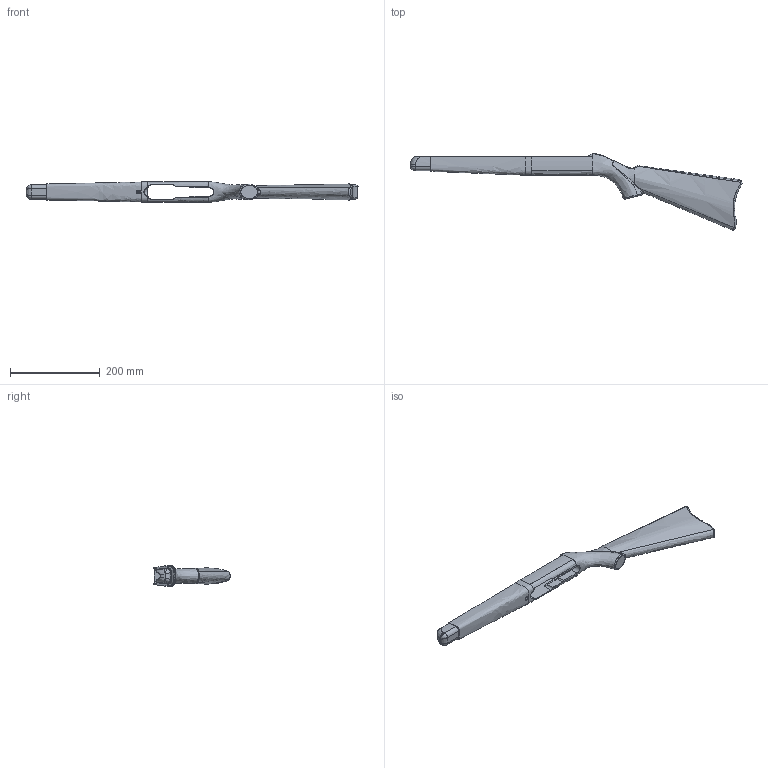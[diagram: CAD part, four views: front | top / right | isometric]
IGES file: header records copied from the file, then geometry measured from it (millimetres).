
Start section: SolidWorks IGES file using analytic representation for surfaces
Global section: file name: C:\Users\owner\Desktop\Ruger 10-22 rifle stock.IGS; native system: SolidWorks 2008; preprocessor: SolidWorks 2008; author: owner; date: 111006.185002; units: inch
Bounding box: 738.7 x 170.54 x 46.28 mm (x, y, z)
Surface area: 148254.5 mm2 (no closed solid volume)
Topology: 0 solids, 0 shells, 192 faces, 3423 edges, 3418 vertices
Faces by surface type: bspline 120, revolution 72
